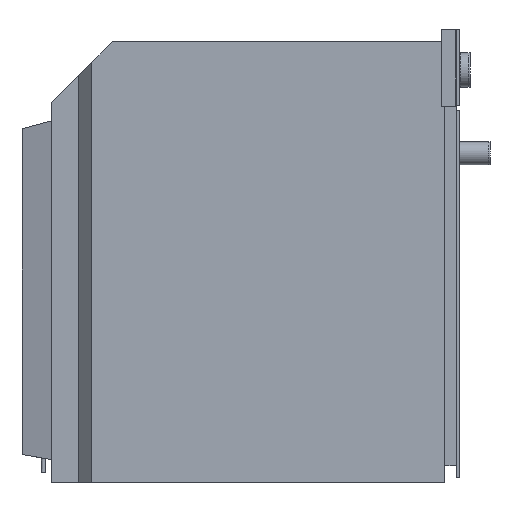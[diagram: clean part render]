
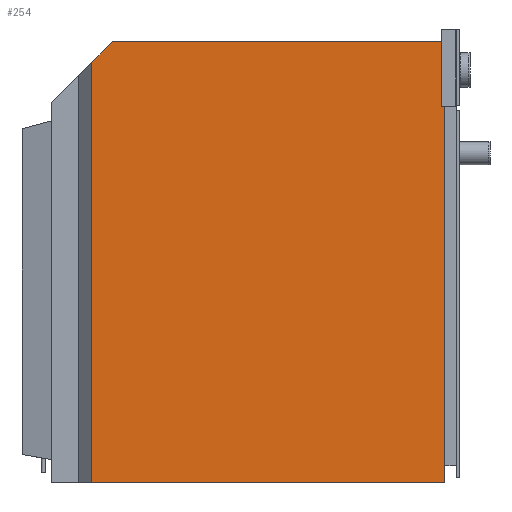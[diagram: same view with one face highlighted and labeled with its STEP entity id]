
A CAD part, left-side view. The second image highlights one B-rep face of the part: STEP entity #254.
In plain terms, the highlighted planar face has unit normal (-1, 0, 0).
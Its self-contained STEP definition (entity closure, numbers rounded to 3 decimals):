
#254=ADVANCED_FACE('',(#472),#376,.T.);
#376=PLANE('',#2118);
#472=FACE_OUTER_BOUND('',#581,.T.);
#581=EDGE_LOOP('',(#920,#921,#922,#923,#924,#925,#926,#927));
#920=ORIENTED_EDGE('',*,*,#1478,.F.);
#921=ORIENTED_EDGE('',*,*,#1456,.T.);
#922=ORIENTED_EDGE('',*,*,#1473,.F.);
#923=ORIENTED_EDGE('',*,*,#1477,.T.);
#924=ORIENTED_EDGE('',*,*,#1521,.T.);
#925=ORIENTED_EDGE('',*,*,#1519,.T.);
#926=ORIENTED_EDGE('',*,*,#1529,.F.);
#927=ORIENTED_EDGE('',*,*,#1494,.F.);
#1268=VERTEX_POINT('',#2864);
#1273=VERTEX_POINT('',#2873);
#1285=VERTEX_POINT('',#2908);
#1287=VERTEX_POINT('',#2915);
#1288=VERTEX_POINT('',#2919);
#1297=VERTEX_POINT('',#2950);
#1315=VERTEX_POINT('',#3013);
#1316=VERTEX_POINT('',#3015);
#1456=EDGE_CURVE('',#1268,#1273,#1705,.T.);
#1473=EDGE_CURVE('',#1285,#1273,#1722,.T.);
#1477=EDGE_CURVE('',#1285,#1287,#1726,.T.);
#1478=EDGE_CURVE('',#1268,#1288,#1727,.T.);
#1494=EDGE_CURVE('',#1288,#1297,#1743,.T.);
#1519=EDGE_CURVE('',#1316,#1315,#1765,.T.);
#1521=EDGE_CURVE('',#1287,#1316,#1767,.T.);
#1529=EDGE_CURVE('',#1297,#1315,#1775,.T.);
#1705=LINE('',#2874,#1899);
#1722=LINE('',#2909,#1916);
#1726=LINE('',#2916,#1920);
#1727=LINE('',#2918,#1921);
#1743=LINE('',#2949,#1937);
#1765=LINE('',#3014,#1959);
#1767=LINE('',#3018,#1961);
#1775=LINE('',#3032,#1969);
#1899=VECTOR('',#2303,1.);
#1916=VECTOR('',#2332,1.);
#1920=VECTOR('',#2338,1.);
#1921=VECTOR('',#2341,1.);
#1937=VECTOR('',#2369,1.);
#1959=VECTOR('',#2415,1.);
#1961=VECTOR('',#2419,1.);
#1969=VECTOR('',#2431,1.);
#2118=AXIS2_PLACEMENT_3D('',#3034,#2434,#2435);
#2303=DIRECTION('',(0.,1.,0.));
#2332=DIRECTION('',(0.,0.,-1.));
#2338=DIRECTION('',(0.,1.,0.));
#2341=DIRECTION('',(0.,0.,-1.));
#2369=DIRECTION('',(0.,0.,-1.));
#2415=DIRECTION('',(0.,0.,-1.));
#2419=DIRECTION('',(0.,0.707,-0.707));
#2431=DIRECTION('',(0.,1.,0.));
#2434=DIRECTION('',(-1.,0.,0.));
#2435=DIRECTION('',(0.,-1.,0.));
#2864=CARTESIAN_POINT('',(-274.95,-238.2,213.611));
#2873=CARTESIAN_POINT('',(-274.95,-234.05,213.611));
#2874=CARTESIAN_POINT('',(-274.95,-234.05,213.611));
#2908=CARTESIAN_POINT('',(-274.95,-234.05,297.917));
#2909=CARTESIAN_POINT('',(-274.95,-234.05,213.611));
#2915=CARTESIAN_POINT('',(-274.95,195.551,297.917));
#2916=CARTESIAN_POINT('',(-274.95,-238.2,297.917));
#2918=CARTESIAN_POINT('',(-274.95,-238.2,297.917));
#2919=CARTESIAN_POINT('',(-274.95,-238.2,-255.183));
#2949=CARTESIAN_POINT('',(-274.95,-238.2,297.917));
#2950=CARTESIAN_POINT('',(-274.95,-238.2,-277.733));
#3013=CARTESIAN_POINT('',(-274.95,222.45,-277.733));
#3014=CARTESIAN_POINT('',(-274.95,222.45,271.017));
#3015=CARTESIAN_POINT('',(-274.95,222.45,271.017));
#3018=CARTESIAN_POINT('',(-274.95,195.551,297.917));
#3032=CARTESIAN_POINT('',(-274.95,-238.2,-277.733));
#3034=CARTESIAN_POINT('',(-274.95,222.45,-277.733));
